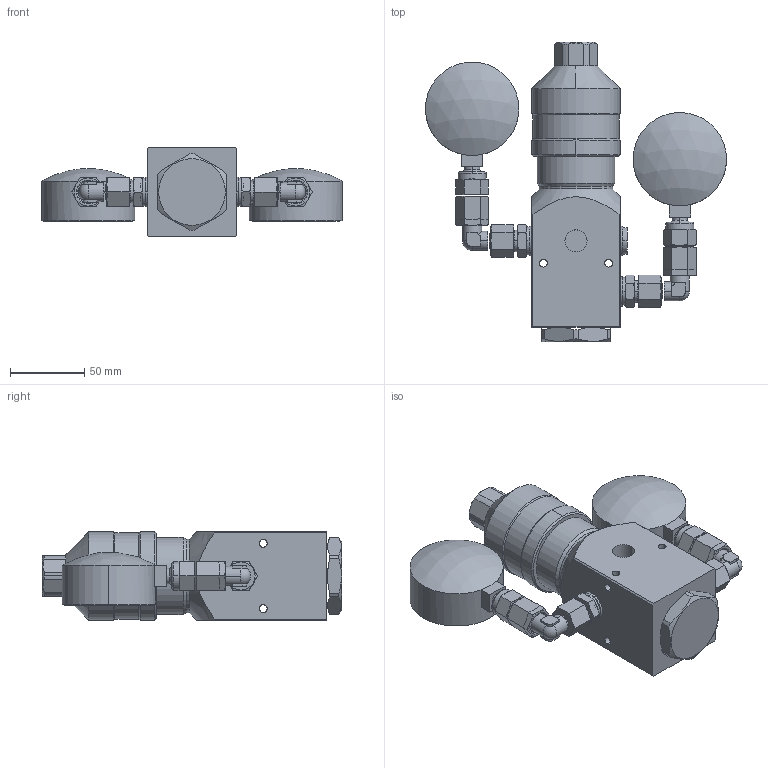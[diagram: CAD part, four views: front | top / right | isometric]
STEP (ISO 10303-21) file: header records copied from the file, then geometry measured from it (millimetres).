
FILE_DESCRIPTION (( 'STEP AP214' ), '1' );
FILE_NAME ('Assem1.STEP', '2021-10-26T17:58:02', ( 'Daniel' ), ( '' ), 'SwSTEP 2.0', 'SolidWorks 2016', '' );
FILE_SCHEMA (( 'AUTOMOTIVE_DESIGN' ));
Length unit declared in the file: millimetre
Products named in the file (3): DN8; DN8_gauges; Assem1
Assembly tree (2 placements, depth 2):
  Assem1
    DN8_gauges
    DN8
Bounding box: 203.06 x 202.02 x 60 mm (x, y, z)
Surface area: 102856 mm2 (no closed solid volume)
Topology: 0 solids, 32 shells, 520 faces, 1348 edges, 874 vertices
Faces by surface type: plane 221, cylinder 130, cone 125, bspline 40, sphere 4
Entity records: 24518 total; most frequent: CARTESIAN_POINT 12379, ORIENTED_EDGE 2491, DIRECTION 2125, EDGE_CURVE 1346, VERTEX_POINT 874, AXIS2_PLACEMENT_3D 823, EDGE_LOOP 580, FACE_OUTER_BOUND 520
